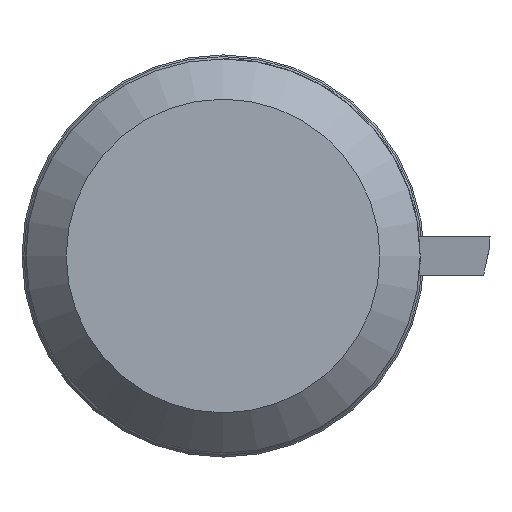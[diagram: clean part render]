
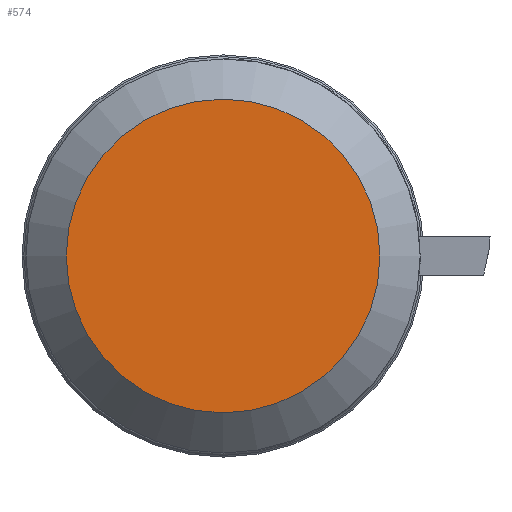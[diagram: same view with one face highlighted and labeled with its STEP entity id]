
A CAD part, left-side view. The second image highlights one B-rep face of the part: STEP entity #574.
In plain terms, the highlighted planar face has unit normal (-1, 0, 0).
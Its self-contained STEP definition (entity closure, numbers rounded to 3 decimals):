
#50=CIRCLE('',#654,3.9);
#97=FACE_OUTER_BOUND('',#131,.T.);
#131=EDGE_LOOP('',(#490));
#263=VERTEX_POINT('',#1042);
#338=EDGE_CURVE('',#263,#263,#50,.T.);
#490=ORIENTED_EDGE('',*,*,#338,.T.);
#510=PLANE('',#655);
#574=ADVANCED_FACE('',(#97),#510,.T.);
#654=AXIS2_PLACEMENT_3D('',#1043,#814,#815);
#655=AXIS2_PLACEMENT_3D('',#1045,#817,#818);
#814=DIRECTION('center_axis',(-1.,0.,0.));
#815=DIRECTION('ref_axis',(0.,0.,1.));
#817=DIRECTION('center_axis',(-1.,0.,0.));
#818=DIRECTION('ref_axis',(0.,0.,1.));
#1042=CARTESIAN_POINT('',(0.,3.9,0.));
#1043=CARTESIAN_POINT('Origin',(0.,0.,0.));
#1045=CARTESIAN_POINT('Origin',(0.,0.,0.));
